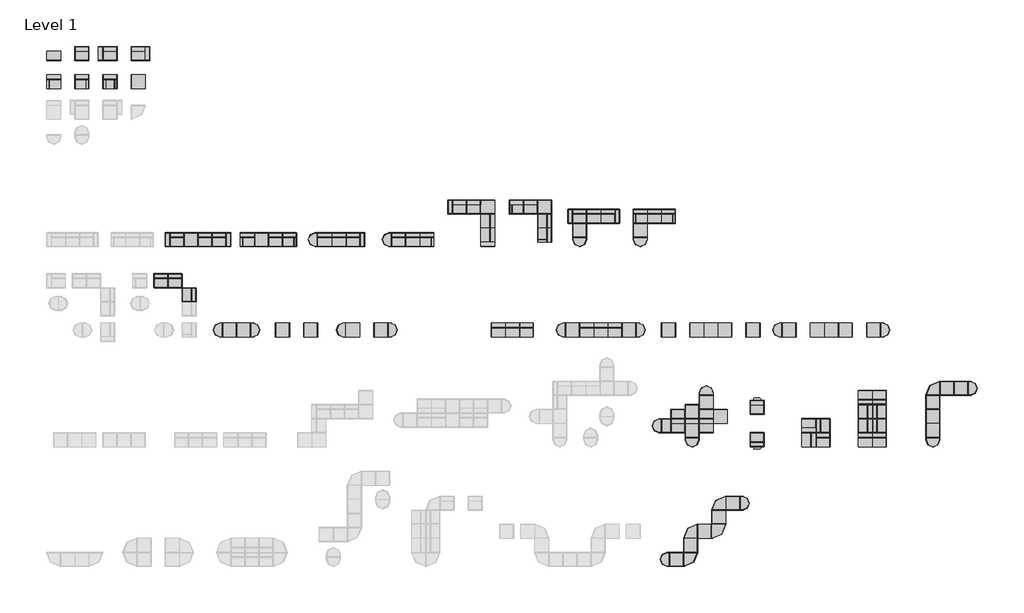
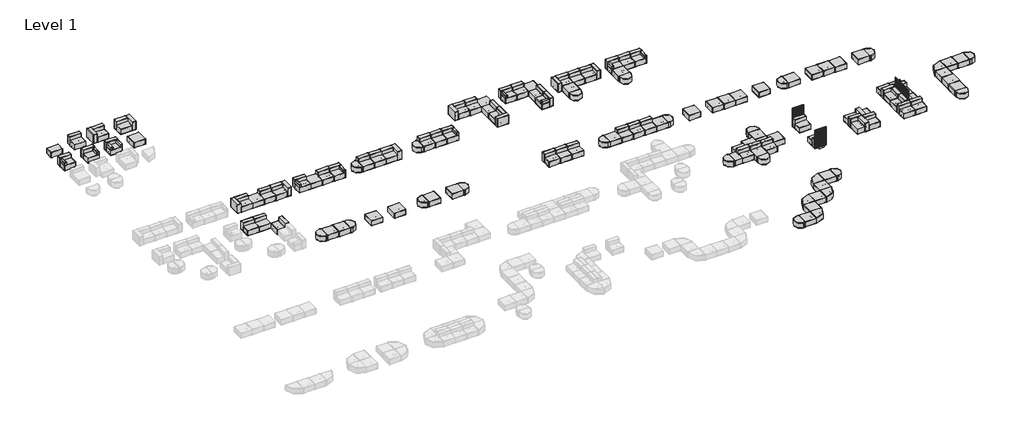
# One storey, part 2 of 2: 128 furniture elements.
"""IFC4 building model written with IfcOpenShell, lengths in millimetres."""

from ifc_helpers import new_model, si_unit, origin, place, context, project, spatial, transform, mapped, element, save
from components import furniture_5084037b, furniture_3ffb0636, furniture_b39dd79e, furniture_9625b8b5, furniture_e837e3ce, furniture_8b4e13db, furniture_611754e7, furniture_8cec5439, furniture_a2253782, furniture_31a3f507, furniture_429ba365, furniture_8747c72a, furniture_3dcba1a2, furniture_e2d3b3b4, furniture_0edc51ff, furniture_c2843c0f, square_end_608f2f8a, square_end_dfce1c3f

model = new_model("IFC4")

# Units and contexts
model_context = context("Model", 3, world=origin())
ifc_project = project(units=[si_unit("LENGTHUNIT", "METRE", prefix="MILLI")], contexts=[model_context])

# Site, building, storey
site = spatial("IfcSite", under=ifc_project)
building = spatial("IfcBuilding", under=site)
storey = spatial("IfcBuildingStorey", under=building, Name="Level 1", Elevation=0.0)

# Furniture
placement = place(None, origin())
furniture_shape = furniture_5084037b(model_context)
element("IfcFurniture", 1, ObjectType="KFI Studios - Conversa : 24”x36” Seat", at=placement, inside=storey, context=model_context, shape_type="MappedRepresentation", body=[
    mapped(furniture_shape, transform((-6591.037549, 2440.3500868, 0.0), x_axis=(1.0, 0.0, 0.0), y_axis=(0.0, 1.0, 0.0), z_axis=(0.0, 0.0, 1.0))),
])
element("IfcFurniture", 2, ObjectType="KFI Studios - Conversa : 24”x36” Seat", at=placement, inside=storey, context=model_context, shape_type="MappedRepresentation", body=[
    mapped(furniture_shape, transform((33193.777163, -21601.5371987, 0.0), x_axis=(0.0, 1.0, 0.0), y_axis=(-1.0, 0.0, 0.0), z_axis=(0.0, 0.0, 1.0))),
])
element("IfcFurniture", 3, ObjectType="KFI Studios - Conversa : 24”x36” Seat", at=placement, inside=storey, context=model_context, shape_type="MappedRepresentation", body=[
    mapped(furniture_shape, transform((33955.777163, -20839.5371987, 0.0), x_axis=(1.0, 0.0, 0.0), y_axis=(0.0, 1.0, 0.0), z_axis=(0.0, 0.0, 1.0))),
])
element("IfcFurniture", 4, ObjectType="KFI Studios - Conversa : 24”x36” Seat", at=placement, inside=storey, context=model_context, shape_type="MappedRepresentation", body=[
    mapped(furniture_shape, transform((35784.577163, -20839.5371987, 0.0), x_axis=(1.0, 0.0, 0.0), y_axis=(0.0, 1.0, 0.0), z_axis=(0.0, 0.0, 1.0))),
])
furniture_2_shape = furniture_3ffb0636(model_context)
element("IfcFurniture", 5, ObjectType="KFI Studios - Conversa : 24”x36” Seat with Back", at=placement, inside=storey, context=model_context, shape_type="MappedRepresentation", body=[
    mapped(furniture_2_shape, transform((-4762.237549, 2440.3500868, 0.0), x_axis=(1.0, 0.0, 0.0), y_axis=(0.0, 1.0, 0.0), z_axis=(0.0, 0.0, 1.0))),
])
element("IfcFurniture", 6, ObjectType="KFI Studios - Conversa : 24”x36” Seat with Back", at=placement, inside=storey, context=model_context, shape_type="MappedRepresentation", body=[
    mapped(furniture_2_shape, transform((3236.5868696, -9663.2904078, 0.0), x_axis=(1.0, 0.0, 0.0), y_axis=(0.0, 1.0, 0.0), z_axis=(0.0, 0.0, 1.0))),
])
element("IfcFurniture", 7, ObjectType="KFI Studios - Conversa : 24”x36” Seat with Back", at=placement, inside=storey, context=model_context, shape_type="MappedRepresentation", body=[
    mapped(furniture_2_shape, transform((7808.5868696, -9663.2904078, 0.0), x_axis=(1.0, 0.0, 0.0), y_axis=(0.0, 1.0, 0.0), z_axis=(0.0, 0.0, 1.0))),
])
element("IfcFurniture", 8, ObjectType="KFI Studios - Conversa : 24”x36” Seat with Back", at=placement, inside=storey, context=model_context, shape_type="MappedRepresentation", body=[
    mapped(furniture_2_shape, transform((11008.9868696, -9663.2904078, 0.0), x_axis=(1.0, 0.0, 0.0), y_axis=(0.0, 1.0, 0.0), z_axis=(0.0, 0.0, 1.0))),
])
element("IfcFurniture", 9, ObjectType="KFI Studios - Conversa : 24”x36” Seat with Back", at=placement, inside=storey, context=model_context, shape_type="MappedRepresentation", body=[
    mapped(furniture_2_shape, transform((11923.3868696, -9663.2904078, 0.0), x_axis=(1.0, 0.0, 0.0), y_axis=(0.0, 1.0, 0.0), z_axis=(0.0, 0.0, 1.0))),
])
element("IfcFurniture", 10, ObjectType="KFI Studios - Conversa : 24”x36” Seat with Back", at=placement, inside=storey, context=model_context, shape_type="MappedRepresentation", body=[
    mapped(furniture_2_shape, transform((15807.7116224, -9663.2904078, 0.0), x_axis=(1.0, 0.0, 0.0), y_axis=(0.0, 1.0, 0.0), z_axis=(0.0, 0.0, 1.0))),
])
element("IfcFurniture", 11, ObjectType="KFI Studios - Conversa : 24”x36” Seat with Back", at=placement, inside=storey, context=model_context, shape_type="MappedRepresentation", body=[
    mapped(furniture_2_shape, transform((16722.1116224, -9663.2904078, 0.0), x_axis=(1.0, 0.0, 0.0), y_axis=(0.0, 1.0, 0.0), z_axis=(0.0, 0.0, 1.0))),
])
element("IfcFurniture", 12, ObjectType="KFI Studios - Conversa : 24”x36” Seat with Back", at=placement, inside=storey, context=model_context, shape_type="MappedRepresentation", body=[
    mapped(furniture_2_shape, transform((20680.9097099, -7529.6904078, 0.0), x_axis=(1.0, 0.0, 0.0), y_axis=(0.0, 1.0, 0.0), z_axis=(0.0, 0.0, 1.0))),
])
element("IfcFurniture", 13, ObjectType="KFI Studios - Conversa : 24”x36” Seat with Back", at=placement, inside=storey, context=model_context, shape_type="MappedRepresentation", body=[
    mapped(furniture_2_shape, transform((21442.9097099, -8291.6904078, 0.0), x_axis=(0.0, -1.0, 0.0), y_axis=(1.0, 0.0, 0.0), z_axis=(0.0, 0.0, 1.0))),
])
element("IfcFurniture", 14, ObjectType="KFI Studios - Conversa : 24”x36” Seat with Back", at=placement, inside=storey, context=model_context, shape_type="MappedRepresentation", body=[
    mapped(furniture_2_shape, transform((24373.232917, -7529.6904078, 0.0), x_axis=(1.0, 0.0, 0.0), y_axis=(0.0, 1.0, 0.0), z_axis=(0.0, 0.0, 1.0))),
])
element("IfcFurniture", 15, ObjectType="KFI Studios - Conversa : 24”x36” Seat with Back", at=placement, inside=storey, context=model_context, shape_type="MappedRepresentation", body=[
    mapped(furniture_2_shape, transform((25135.232917, -8291.6904078, 0.0), x_axis=(0.0, -1.0, 0.0), y_axis=(1.0, 0.0, 0.0), z_axis=(0.0, 0.0, 1.0))),
])
element("IfcFurniture", 16, ObjectType="KFI Studios - Conversa : 24”x36” Seat with Back", at=placement, inside=storey, context=model_context, shape_type="MappedRepresentation", body=[
    mapped(furniture_2_shape, transform((28479.0917603, -8139.2904078, 0.0), x_axis=(1.0, 0.0, 0.0), y_axis=(0.0, 1.0, 0.0), z_axis=(0.0, 0.0, 1.0))),
])
element("IfcFurniture", 17, ObjectType="KFI Studios - Conversa : 24”x36” Seat with Back", at=placement, inside=storey, context=model_context, shape_type="MappedRepresentation", body=[
    mapped(furniture_2_shape, transform((32410.424472, -8139.2904078, 0.0), x_axis=(1.0, 0.0, 0.0), y_axis=(0.0, 1.0, 0.0), z_axis=(0.0, 0.0, 1.0))),
])
element("IfcFurniture", 18, ObjectType="KFI Studios - Conversa : 24”x36” Seat with Back", at=placement, inside=storey, context=model_context, shape_type="MappedRepresentation", body=[
    mapped(furniture_2_shape, transform((373.3647975, -12327.6582706, 0.0), x_axis=(1.0, 0.0, 0.0), y_axis=(0.0, 1.0, 0.0), z_axis=(0.0, 0.0, 1.0))),
])
element("IfcFurniture", 19, ObjectType="KFI Studios - Conversa : 24”x36” Seat with Back", at=placement, inside=storey, context=model_context, shape_type="MappedRepresentation", body=[
    mapped(furniture_2_shape, transform((1287.7647975, -12327.6582706, 0.0), x_axis=(1.0, 0.0, 0.0), y_axis=(0.0, 1.0, 0.0), z_axis=(0.0, 0.0, 1.0))),
])
element("IfcFurniture", 20, ObjectType="KFI Studios - Conversa : 24”x36” Seat with Back", at=placement, inside=storey, context=model_context, shape_type="MappedRepresentation", body=[
    mapped(furniture_2_shape, transform((2049.7647975, -13089.6582706, 0.0), x_axis=(0.0, -1.0, 0.0), y_axis=(1.0, 0.0, 0.0), z_axis=(0.0, 0.0, 1.0))),
])
element("IfcFurniture", 21, ObjectType="KFI Studios - Conversa : 24”x36” Seat with Back", at=placement, inside=storey, context=model_context, shape_type="MappedRepresentation", body=[
    mapped(furniture_2_shape, transform((22275.9177388, -15528.0582706, 0.0), x_axis=(1.0, 0.0, 0.0), y_axis=(0.0, 1.0, 0.0), z_axis=(0.0, 0.0, 1.0))),
])
element("IfcFurniture", 22, ObjectType="KFI Studios - Conversa : 24”x36” Seat with Back", at=placement, inside=storey, context=model_context, shape_type="MappedRepresentation", body=[
    mapped(furniture_2_shape, transform((23190.3177388, -15528.0582706, 0.0), x_axis=(1.0, 0.0, 0.0), y_axis=(0.0, 1.0, 0.0), z_axis=(0.0, 0.0, 1.0))),
])
element("IfcFurniture", 23, ObjectType="KFI Studios - Conversa : 24”x36” Seat with Back", at=placement, inside=storey, context=model_context, shape_type="MappedRepresentation", body=[
    mapped(furniture_2_shape, transform((24104.7177388, -15528.0582706, 0.0), x_axis=(1.0, 0.0, 0.0), y_axis=(0.0, 1.0, 0.0), z_axis=(0.0, 0.0, 1.0))),
])
element("IfcFurniture", 24, ObjectType="KFI Studios - Conversa : 24”x36” Seat with Back", at=placement, inside=storey, context=model_context, shape_type="MappedRepresentation", body=[
    mapped(furniture_2_shape, transform((28021.8917603, -15528.0582706, 0.0), x_axis=(1.0, 0.0, 0.0), y_axis=(0.0, 1.0, 0.0), z_axis=(0.0, 0.0, 1.0))),
])
element("IfcFurniture", 25, ObjectType="KFI Studios - Conversa : 24”x36” Seat with Back", at=placement, inside=storey, context=model_context, shape_type="MappedRepresentation", body=[
    mapped(furniture_2_shape, transform((28936.2917603, -15528.0582706, 0.0), x_axis=(1.0, 0.0, 0.0), y_axis=(0.0, 1.0, 0.0), z_axis=(0.0, 0.0, 1.0))),
])
element("IfcFurniture", 26, ObjectType="KFI Studios - Conversa : 24”x36” Seat with Back", at=placement, inside=storey, context=model_context, shape_type="MappedRepresentation", body=[
    mapped(furniture_2_shape, transform((29850.6917603, -15528.0582706, 0.0), x_axis=(1.0, 0.0, 0.0), y_axis=(0.0, 1.0, 0.0), z_axis=(0.0, 0.0, 1.0))),
])
element("IfcFurniture", 27, ObjectType="KFI Studios - Conversa : 24”x36” Seat with Back", at=placement, inside=storey, context=model_context, shape_type="MappedRepresentation", body=[
    mapped(furniture_2_shape, transform((33955.777163, -21753.9371987, 0.0), x_axis=(1.0, 0.0, 0.0), y_axis=(0.0, 1.0, 0.0), z_axis=(0.0, 0.0, 1.0))),
])
element("IfcFurniture", 28, ObjectType="KFI Studios - Conversa : 24”x36” Seat with Back", at=placement, inside=storey, context=model_context, shape_type="MappedRepresentation", body=[
    mapped(furniture_2_shape, transform((35784.577163, -21753.9371987, 0.0), x_axis=(1.0, 0.0, 0.0), y_axis=(0.0, 1.0, 0.0), z_axis=(0.0, 0.0, 1.0))),
])
element("IfcFurniture", 29, ObjectType="KFI Studios - Conversa : 24”x36” Seat with Back", at=placement, inside=storey, context=model_context, shape_type="MappedRepresentation", body=[
    mapped(furniture_2_shape, transform((39090.5576113, -20550.7499834, 0.0), x_axis=(1.0, 0.0, 0.0), y_axis=(0.0, 1.0, 0.0), z_axis=(0.0, 0.0, 1.0))),
])
element("IfcFurniture", 30, ObjectType="KFI Studios - Conversa : 24”x36” Seat with Back", at=placement, inside=storey, context=model_context, shape_type="MappedRepresentation", body=[
    mapped(furniture_2_shape, transform((39090.5576113, -22351.2842481, 0.0), x_axis=(-1.0, 0.0, 0.0), y_axis=(0.0, -1.0, 0.0), z_axis=(0.0, 0.0, 1.0))),
])
element("IfcFurniture", 31, ObjectType="KFI Studios - Conversa : 24”x36” Seat with Back", at=placement, inside=storey, context=model_context, shape_type="MappedRepresentation", body=[
    mapped(furniture_2_shape, transform((43369.616261, -22668.3371987, 0.0), x_axis=(1.0, 0.0, 0.0), y_axis=(0.0, 1.0, 0.0), z_axis=(0.0, 0.0, 1.0))),
])
element("IfcFurniture", 32, ObjectType="KFI Studios - Conversa : 24”x36” Seat with Back", at=placement, inside=storey, context=model_context, shape_type="MappedRepresentation", body=[
    mapped(furniture_2_shape, transform((42290.5633105, -22515.9371987, 0.0), x_axis=(0.0, -1.0, 0.0), y_axis=(1.0, 0.0, 0.0), z_axis=(0.0, 0.0, 1.0))),
])
element("IfcFurniture", 33, ObjectType="KFI Studios - Conversa : 24”x36” Seat with Back", at=placement, inside=storey, context=model_context, shape_type="MappedRepresentation", body=[
    mapped(furniture_2_shape, transform((42442.9633105, -21436.8842481, 0.0), x_axis=(-1.0, 0.0, 0.0), y_axis=(0.0, -1.0, 0.0), z_axis=(0.0, 0.0, 1.0))),
])
element("IfcFurniture", 34, ObjectType="KFI Studios - Conversa : 24”x36” Seat with Back", at=placement, inside=storey, context=model_context, shape_type="MappedRepresentation", body=[
    mapped(furniture_2_shape, transform((43522.016261, -21589.2842481, 0.0), x_axis=(0.0, 1.0, 0.0), y_axis=(-1.0, 0.0, 0.0), z_axis=(0.0, 0.0, 1.0))),
])
element("IfcFurniture", 35, ObjectType="KFI Studios - Conversa : 24”x36” Seat with Back", at=placement, inside=storey, context=model_context, shape_type="MappedRepresentation", body=[
    mapped(furniture_2_shape, transform((46115.0162357, -22668.3371987, 0.0), x_axis=(1.0, 0.0, 0.0), y_axis=(0.0, 1.0, 0.0), z_axis=(0.0, 0.0, 1.0))),
])
element("IfcFurniture", 36, ObjectType="KFI Studios - Conversa : 24”x36” Seat with Back", at=placement, inside=storey, context=model_context, shape_type="MappedRepresentation", body=[
    mapped(furniture_2_shape, transform((47029.4162357, -22668.3371987, 0.0), x_axis=(1.0, 0.0, 0.0), y_axis=(0.0, 1.0, 0.0), z_axis=(0.0, 0.0, 1.0))),
])
element("IfcFurniture", 37, ObjectType="KFI Studios - Conversa : 24”x36” Seat with Back", at=placement, inside=storey, context=model_context, shape_type="MappedRepresentation", body=[
    mapped(furniture_2_shape, transform((47187.942711, -21589.2842481, 0.0), x_axis=(0.0, 1.0, 0.0), y_axis=(-1.0, 0.0, 0.0), z_axis=(0.0, 0.0, 1.0))),
])
element("IfcFurniture", 38, ObjectType="KFI Studios - Conversa : 24”x36” Seat with Back", at=placement, inside=storey, context=model_context, shape_type="MappedRepresentation", body=[
    mapped(furniture_2_shape, transform((45956.4897605, -20674.8842481, 0.0), x_axis=(0.0, -1.0, 0.0), y_axis=(1.0, 0.0, 0.0), z_axis=(0.0, 0.0, 1.0))),
])
furniture_3_shape = furniture_b39dd79e(model_context)
furniture_4_shape = furniture_9625b8b5(model_context)
element("IfcFurniture", 39, ObjectType="KFI Studios - Conversa : 24”x36” Seat - Left Corner", at=placement, inside=storey, context=model_context, shape_type="MappedRepresentation", body=[
    mapped(furniture_3_shape, transform((-1104.637549, 2440.3500868, 0.0), x_axis=(1.0, 0.0, 0.0), y_axis=(0.0, 1.0, 0.0), z_axis=(0.0, 0.0, 1.0))),
    mapped(furniture_4_shape, transform((-1104.637549, 2440.3500868, 0.0), x_axis=(1.0, 0.0, 0.0), y_axis=(0.0, 1.0, 0.0), z_axis=(0.0, 0.0, 1.0))),
])
element("IfcFurniture", 40, ObjectType="KFI Studios - Conversa : 24”x36” Seat - Left Corner", at=placement, inside=storey, context=model_context, shape_type="MappedRepresentation", body=[
    mapped(furniture_3_shape, transform((4150.9868696, -9663.2904078, 0.0), x_axis=(1.0, 0.0, 0.0), y_axis=(0.0, 1.0, 0.0), z_axis=(0.0, 0.0, 1.0))),
    mapped(furniture_4_shape, transform((4150.9868696, -9663.2904078, 0.0), x_axis=(1.0, 0.0, 0.0), y_axis=(0.0, 1.0, 0.0), z_axis=(0.0, 0.0, 1.0))),
])
element("IfcFurniture", 41, ObjectType="KFI Studios - Conversa : 24”x36” Seat - Left Corner", at=placement, inside=storey, context=model_context, shape_type="MappedRepresentation", body=[
    mapped(furniture_3_shape, transform((12837.7868696, -9663.2904078, 0.0), x_axis=(1.0, 0.0, 0.0), y_axis=(0.0, 1.0, 0.0), z_axis=(0.0, 0.0, 1.0))),
    mapped(furniture_4_shape, transform((12837.7868696, -9663.2904078, 0.0), x_axis=(1.0, 0.0, 0.0), y_axis=(0.0, 1.0, 0.0), z_axis=(0.0, 0.0, 1.0))),
])
element("IfcFurniture", 42, ObjectType="KFI Studios - Conversa : 24”x36” Seat - Left Corner", at=placement, inside=storey, context=model_context, shape_type="MappedRepresentation", body=[
    mapped(furniture_3_shape, transform((21442.9097099, -9206.0904078, 0.0), x_axis=(0.0, -1.0, 0.0), y_axis=(1.0, 0.0, 0.0), z_axis=(0.0, 0.0, 1.0))),
    mapped(furniture_4_shape, transform((21442.9097099, -9206.0904078, 0.0), x_axis=(0.0, -1.0, 0.0), y_axis=(1.0, 0.0, 0.0), z_axis=(0.0, 0.0, 1.0))),
])
element("IfcFurniture", 43, ObjectType="KFI Studios - Conversa : 24”x36” Seat - Left Corner", at=placement, inside=storey, context=model_context, shape_type="MappedRepresentation", body=[
    mapped(furniture_3_shape, transform((29393.4917603, -8139.2904078, 0.0), x_axis=(1.0, 0.0, 0.0), y_axis=(0.0, 1.0, 0.0), z_axis=(0.0, 0.0, 1.0))),
    mapped(furniture_4_shape, transform((29393.4917603, -8139.2904078, 0.0), x_axis=(1.0, 0.0, 0.0), y_axis=(0.0, 1.0, 0.0), z_axis=(0.0, 0.0, 1.0))),
])
furniture_5_shape = furniture_e837e3ce(model_context)
element("IfcFurniture", 44, ObjectType="KFI Studios - Conversa : 24”x36” Seat - Right Corner", at=placement, inside=storey, context=model_context, shape_type="MappedRepresentation", body=[
    mapped(furniture_5_shape, transform((-2933.437549, 2440.3500868, 0.0), x_axis=(1.0, 0.0, 0.0), y_axis=(0.0, 1.0, 0.0), z_axis=(0.0, 0.0, 1.0))),
    mapped(furniture_4_shape, transform((-2933.437549, 2440.3500868, 0.0), x_axis=(1.0, 0.0, 0.0), y_axis=(0.0, 1.0, 0.0), z_axis=(0.0, 0.0, 1.0))),
])
element("IfcFurniture", 45, ObjectType="KFI Studios - Conversa : 24”x36” Seat - Right Corner", at=placement, inside=storey, context=model_context, shape_type="MappedRepresentation", body=[
    mapped(furniture_5_shape, transform((1407.7868696, -9663.2904078, 0.0), x_axis=(1.0, 0.0, 0.0), y_axis=(0.0, 1.0, 0.0), z_axis=(0.0, 0.0, 1.0))),
    mapped(furniture_4_shape, transform((1407.7868696, -9663.2904078, 0.0), x_axis=(1.0, 0.0, 0.0), y_axis=(0.0, 1.0, 0.0), z_axis=(0.0, 0.0, 1.0))),
])
element("IfcFurniture", 46, ObjectType="KFI Studios - Conversa : 24”x36” Seat - Right Corner", at=placement, inside=storey, context=model_context, shape_type="MappedRepresentation", body=[
    mapped(furniture_5_shape, transform((19766.5097099, -7529.6904078, 0.0), x_axis=(1.0, 0.0, 0.0), y_axis=(0.0, 1.0, 0.0), z_axis=(0.0, 0.0, 1.0))),
    mapped(furniture_4_shape, transform((19766.5097099, -7529.6904078, 0.0), x_axis=(1.0, 0.0, 0.0), y_axis=(0.0, 1.0, 0.0), z_axis=(0.0, 0.0, 1.0))),
])
element("IfcFurniture", 47, ObjectType="KFI Studios - Conversa : 24”x36” Seat - Right Corner", at=placement, inside=storey, context=model_context, shape_type="MappedRepresentation", body=[
    mapped(furniture_5_shape, transform((27564.6917603, -8139.2904078, 0.0), x_axis=(1.0, 0.0, 0.0), y_axis=(0.0, 1.0, 0.0), z_axis=(0.0, 0.0, 1.0))),
    mapped(furniture_4_shape, transform((27564.6917603, -8139.2904078, 0.0), x_axis=(1.0, 0.0, 0.0), y_axis=(0.0, 1.0, 0.0), z_axis=(0.0, 0.0, 1.0))),
])
furniture_6_shape = furniture_8b4e13db(model_context)
furniture_7_shape = furniture_611754e7(model_context)
element("IfcFurniture", 48, ObjectType="KFI Studios - Conversa : 24”x36” Seat - Right Corner, Small Arm", at=placement, inside=storey, context=model_context, shape_type="MappedRepresentation", body=[
    mapped(furniture_6_shape, transform((-6591.037549, 611.5500868, 0.0), x_axis=(1.0, 0.0, 0.0), y_axis=(0.0, 1.0, 0.0), z_axis=(0.0, 0.0, 1.0))),
    mapped(furniture_7_shape, transform((-6591.037549, 611.5500868, 0.0), x_axis=(1.0, 0.0, 0.0), y_axis=(0.0, 1.0, 0.0), z_axis=(0.0, 0.0, 1.0))),
])
element("IfcFurniture", 49, ObjectType="KFI Studios - Conversa : 24”x36” Seat - Right Corner, Small Arm", at=placement, inside=storey, context=model_context, shape_type="MappedRepresentation", body=[
    mapped(furniture_6_shape, transform((5979.7868696, -9663.2904078, 0.0), x_axis=(1.0, 0.0, 0.0), y_axis=(0.0, 1.0, 0.0), z_axis=(0.0, 0.0, 1.0))),
    mapped(furniture_7_shape, transform((5979.7868696, -9663.2904078, 0.0), x_axis=(1.0, 0.0, 0.0), y_axis=(0.0, 1.0, 0.0), z_axis=(0.0, 0.0, 1.0))),
])
element("IfcFurniture", 50, ObjectType="KFI Studios - Conversa : 24”x36” Seat - Right Corner, Small Arm", at=placement, inside=storey, context=model_context, shape_type="MappedRepresentation", body=[
    mapped(furniture_6_shape, transform((23458.832917, -7529.6904078, 0.0), x_axis=(1.0, 0.0, 0.0), y_axis=(0.0, 1.0, 0.0), z_axis=(0.0, 0.0, 1.0))),
    mapped(furniture_7_shape, transform((23458.832917, -7529.6904078, 0.0), x_axis=(1.0, 0.0, 0.0), y_axis=(0.0, 1.0, 0.0), z_axis=(0.0, 0.0, 1.0))),
])
element("IfcFurniture", 51, ObjectType="KFI Studios - Conversa : 24”x36” Seat - Right Corner, Small Arm", at=placement, inside=storey, context=model_context, shape_type="MappedRepresentation", body=[
    mapped(furniture_6_shape, transform((31496.024472, -8139.2904078, 0.0), x_axis=(1.0, 0.0, 0.0), y_axis=(0.0, 1.0, 0.0), z_axis=(0.0, 0.0, 1.0))),
    mapped(furniture_7_shape, transform((31496.024472, -8139.2904078, 0.0), x_axis=(1.0, 0.0, 0.0), y_axis=(0.0, 1.0, 0.0), z_axis=(0.0, 0.0, 1.0))),
])
furniture_8_shape = furniture_8cec5439(model_context)
element("IfcFurniture", 52, ObjectType="KFI Studios - Conversa : 24”x36” Seat - Left Corner, Small Arm", at=placement, inside=storey, context=model_context, shape_type="MappedRepresentation", body=[
    mapped(furniture_8_shape, transform((-4762.237549, 611.5500868, 0.0), x_axis=(1.0, 0.0, 0.0), y_axis=(0.0, 1.0, 0.0), z_axis=(0.0, 0.0, 1.0))),
    mapped(furniture_7_shape, transform((-4762.237549, 611.5500868, 0.0), x_axis=(1.0, 0.0, 0.0), y_axis=(0.0, 1.0, 0.0), z_axis=(0.0, 0.0, 1.0))),
])
element("IfcFurniture", 53, ObjectType="KFI Studios - Conversa : 24”x36” Seat - Left Corner, Small Arm", at=placement, inside=storey, context=model_context, shape_type="MappedRepresentation", body=[
    mapped(furniture_8_shape, transform((8722.9868696, -9663.2904078, 0.0), x_axis=(1.0, 0.0, 0.0), y_axis=(0.0, 1.0, 0.0), z_axis=(0.0, 0.0, 1.0))),
    mapped(furniture_7_shape, transform((8722.9868696, -9663.2904078, 0.0), x_axis=(1.0, 0.0, 0.0), y_axis=(0.0, 1.0, 0.0), z_axis=(0.0, 0.0, 1.0))),
])
element("IfcFurniture", 54, ObjectType="KFI Studios - Conversa : 24”x36” Seat - Left Corner, Small Arm", at=placement, inside=storey, context=model_context, shape_type="MappedRepresentation", body=[
    mapped(furniture_8_shape, transform((17636.5116224, -9663.2904078, 0.0), x_axis=(1.0, 0.0, 0.0), y_axis=(0.0, 1.0, 0.0), z_axis=(0.0, 0.0, 1.0))),
    mapped(furniture_7_shape, transform((17636.5116224, -9663.2904078, 0.0), x_axis=(1.0, 0.0, 0.0), y_axis=(0.0, 1.0, 0.0), z_axis=(0.0, 0.0, 1.0))),
])
element("IfcFurniture", 55, ObjectType="KFI Studios - Conversa : 24”x36” Seat - Left Corner, Small Arm", at=placement, inside=storey, context=model_context, shape_type="MappedRepresentation", body=[
    mapped(furniture_8_shape, transform((25135.232917, -9206.0904078, 0.0), x_axis=(0.0, -1.0, 0.0), y_axis=(1.0, 0.0, 0.0), z_axis=(0.0, 0.0, 1.0))),
    mapped(furniture_7_shape, transform((25135.232917, -9206.0904078, 0.0), x_axis=(0.0, -1.0, 0.0), y_axis=(1.0, 0.0, 0.0), z_axis=(0.0, 0.0, 1.0))),
])
element("IfcFurniture", 56, ObjectType="KFI Studios - Conversa : 24”x36” Seat - Left Corner, Small Arm", at=placement, inside=storey, context=model_context, shape_type="MappedRepresentation", body=[
    mapped(furniture_8_shape, transform((33324.824472, -8139.2904078, 0.0), x_axis=(1.0, 0.0, 0.0), y_axis=(0.0, 1.0, 0.0), z_axis=(0.0, 0.0, 1.0))),
    mapped(furniture_7_shape, transform((33324.824472, -8139.2904078, 0.0), x_axis=(1.0, 0.0, 0.0), y_axis=(0.0, 1.0, 0.0), z_axis=(0.0, 0.0, 1.0))),
])
furniture_9_shape = furniture_a2253782(model_context)
element("IfcFurniture", 57, ObjectType="KFI Studios - Conversa : 36”x36” Seat", at=placement, inside=storey, context=model_context, shape_type="MappedRepresentation", body=[
    mapped(furniture_9_shape, transform((-1104.637549, 763.9500868, 0.0), x_axis=(1.0, 0.0, 0.0), y_axis=(0.0, 1.0, 0.0), z_axis=(0.0, 0.0, 1.0))),
])
element("IfcFurniture", 58, ObjectType="KFI Studios - Conversa : 36”x36” Seat", at=placement, inside=storey, context=model_context, shape_type="MappedRepresentation", body=[
    mapped(furniture_9_shape, transform((2322.1868696, -9510.8904078, 0.0), x_axis=(1.0, 0.0, 0.0), y_axis=(0.0, 1.0, 0.0), z_axis=(0.0, 0.0, 1.0))),
])
element("IfcFurniture", 59, ObjectType="KFI Studios - Conversa : 36”x36” Seat", at=placement, inside=storey, context=model_context, shape_type="MappedRepresentation", body=[
    mapped(furniture_9_shape, transform((6894.1868696, -9510.8904078, 0.0), x_axis=(1.0, 0.0, 0.0), y_axis=(0.0, 1.0, 0.0), z_axis=(0.0, 0.0, 1.0))),
])
element("IfcFurniture", 60, ObjectType="KFI Studios - Conversa : 36”x36” Seat", at=placement, inside=storey, context=model_context, shape_type="MappedRepresentation", body=[
    mapped(furniture_9_shape, transform((21595.3097099, -7377.2904078, 0.0), x_axis=(1.0, 0.0, 0.0), y_axis=(0.0, 1.0, 0.0), z_axis=(0.0, 0.0, 1.0))),
])
element("IfcFurniture", 61, ObjectType="KFI Studios - Conversa : 36”x36” Seat", at=placement, inside=storey, context=model_context, shape_type="MappedRepresentation", body=[
    mapped(furniture_9_shape, transform((25287.632917, -7377.2904078, 0.0), x_axis=(1.0, 0.0, 0.0), y_axis=(0.0, 1.0, 0.0), z_axis=(0.0, 0.0, 1.0))),
])
element("IfcFurniture", 62, ObjectType="KFI Studios - Conversa : 36”x36” Seat", at=placement, inside=storey, context=model_context, shape_type="MappedRepresentation", body=[
    mapped(furniture_9_shape, transform((27564.6917603, -8901.2904078, 0.0), x_axis=(1.0, 0.0, 0.0), y_axis=(0.0, 1.0, 0.0), z_axis=(0.0, 0.0, 1.0))),
])
element("IfcFurniture", 63, ObjectType="KFI Studios - Conversa : 36”x36” Seat", at=placement, inside=storey, context=model_context, shape_type="MappedRepresentation", body=[
    mapped(furniture_9_shape, transform((31496.024472, -8901.2904078, 0.0), x_axis=(1.0, 0.0, 0.0), y_axis=(0.0, 1.0, 0.0), z_axis=(0.0, 0.0, 1.0))),
])
element("IfcFurniture", 64, ObjectType="KFI Studios - Conversa : 36”x36” Seat", at=placement, inside=storey, context=model_context, shape_type="MappedRepresentation", body=[
    mapped(furniture_9_shape, transform((4824.4730203, -15375.6582706, 0.0), x_axis=(1.0, 0.0, 0.0), y_axis=(0.0, 1.0, 0.0), z_axis=(0.0, 0.0, 1.0))),
])
element("IfcFurniture", 65, ObjectType="KFI Studios - Conversa : 36”x36” Seat", at=placement, inside=storey, context=model_context, shape_type="MappedRepresentation", body=[
    mapped(furniture_9_shape, transform((5738.8730203, -15375.6582706, 0.0), x_axis=(1.0, 0.0, 0.0), y_axis=(0.0, 1.0, 0.0), z_axis=(0.0, 0.0, 1.0))),
])
element("IfcFurniture", 66, ObjectType="KFI Studios - Conversa : 36”x36” Seat", at=placement, inside=storey, context=model_context, shape_type="MappedRepresentation", body=[
    mapped(furniture_9_shape, transform((8265.7868696, -15375.6582706, 0.0), x_axis=(1.0, 0.0, 0.0), y_axis=(0.0, 1.0, 0.0), z_axis=(0.0, 0.0, 1.0))),
])
element("IfcFurniture", 67, ObjectType="KFI Studios - Conversa : 36”x36” Seat", at=placement, inside=storey, context=model_context, shape_type="MappedRepresentation", body=[
    mapped(furniture_9_shape, transform((10094.5868696, -15375.6582706, 0.0), x_axis=(1.0, 0.0, 0.0), y_axis=(0.0, 1.0, 0.0), z_axis=(0.0, 0.0, 1.0))),
])
element("IfcFurniture", 68, ObjectType="KFI Studios - Conversa : 36”x36” Seat", at=placement, inside=storey, context=model_context, shape_type="MappedRepresentation", body=[
    mapped(furniture_9_shape, transform((12829.7714388, -15375.6582706, 0.0), x_axis=(1.0, 0.0, 0.0), y_axis=(0.0, 1.0, 0.0), z_axis=(0.0, 0.0, 1.0))),
])
element("IfcFurniture", 69, ObjectType="KFI Studios - Conversa : 36”x36” Seat", at=placement, inside=storey, context=model_context, shape_type="MappedRepresentation", body=[
    mapped(furniture_9_shape, transform((14658.5714388, -15375.6582706, 0.0), x_axis=(1.0, 0.0, 0.0), y_axis=(0.0, 1.0, 0.0), z_axis=(0.0, 0.0, 1.0))),
])
element("IfcFurniture", 70, ObjectType="KFI Studios - Conversa : 36”x36” Seat", at=placement, inside=storey, context=model_context, shape_type="MappedRepresentation", body=[
    mapped(furniture_9_shape, transform((30765.0917603, -15375.6582706, 0.0), x_axis=(1.0, 0.0, 0.0), y_axis=(0.0, 1.0, 0.0), z_axis=(0.0, 0.0, 1.0))),
])
element("IfcFurniture", 71, ObjectType="KFI Studios - Conversa : 36”x36” Seat", at=placement, inside=storey, context=model_context, shape_type="MappedRepresentation", body=[
    mapped(furniture_9_shape, transform((27107.4917603, -15375.6582706, 0.0), x_axis=(1.0, 0.0, 0.0), y_axis=(0.0, 1.0, 0.0), z_axis=(0.0, 0.0, 1.0))),
])
element("IfcFurniture", 72, ObjectType="KFI Studios - Conversa : 36”x36” Seat", at=placement, inside=storey, context=model_context, shape_type="MappedRepresentation", body=[
    mapped(furniture_9_shape, transform((35165.7732988, -15375.6582706, 0.0), x_axis=(1.0, 0.0, 0.0), y_axis=(0.0, 1.0, 0.0), z_axis=(0.0, 0.0, 1.0))),
])
element("IfcFurniture", 73, ObjectType="KFI Studios - Conversa : 36”x36” Seat", at=placement, inside=storey, context=model_context, shape_type="MappedRepresentation", body=[
    mapped(furniture_9_shape, transform((36080.1732988, -15375.6582706, 0.0), x_axis=(1.0, 0.0, 0.0), y_axis=(0.0, 1.0, 0.0), z_axis=(0.0, 0.0, 1.0))),
])
element("IfcFurniture", 74, ObjectType="KFI Studios - Conversa : 36”x36” Seat", at=placement, inside=storey, context=model_context, shape_type="MappedRepresentation", body=[
    mapped(furniture_9_shape, transform((36994.5732988, -15375.6582706, 0.0), x_axis=(1.0, 0.0, 0.0), y_axis=(0.0, 1.0, 0.0), z_axis=(0.0, 0.0, 1.0))),
])
element("IfcFurniture", 75, ObjectType="KFI Studios - Conversa : 36”x36” Seat", at=placement, inside=storey, context=model_context, shape_type="MappedRepresentation", body=[
    mapped(furniture_9_shape, transform((33336.9732988, -15375.6582706, 0.0), x_axis=(1.0, 0.0, 0.0), y_axis=(0.0, 1.0, 0.0), z_axis=(0.0, 0.0, 1.0))),
])
element("IfcFurniture", 76, ObjectType="KFI Studios - Conversa : 36”x36” Seat", at=placement, inside=storey, context=model_context, shape_type="MappedRepresentation", body=[
    mapped(furniture_9_shape, transform((38823.3732988, -15375.6582706, 0.0), x_axis=(1.0, 0.0, 0.0), y_axis=(0.0, 1.0, 0.0), z_axis=(0.0, 0.0, 1.0))),
])
element("IfcFurniture", 77, ObjectType="KFI Studios - Conversa : 36”x36” Seat", at=placement, inside=storey, context=model_context, shape_type="MappedRepresentation", body=[
    mapped(furniture_9_shape, transform((42997.1367055, -15375.6582706, 0.0), x_axis=(1.0, 0.0, 0.0), y_axis=(0.0, 1.0, 0.0), z_axis=(0.0, 0.0, 1.0))),
])
element("IfcFurniture", 78, ObjectType="KFI Studios - Conversa : 36”x36” Seat", at=placement, inside=storey, context=model_context, shape_type="MappedRepresentation", body=[
    mapped(furniture_9_shape, transform((43911.5367055, -15375.6582706, 0.0), x_axis=(1.0, 0.0, 0.0), y_axis=(0.0, 1.0, 0.0), z_axis=(0.0, 0.0, 1.0))),
])
element("IfcFurniture", 79, ObjectType="KFI Studios - Conversa : 36”x36” Seat", at=placement, inside=storey, context=model_context, shape_type="MappedRepresentation", body=[
    mapped(furniture_9_shape, transform((44825.9367055, -15375.6582706, 0.0), x_axis=(1.0, 0.0, 0.0), y_axis=(0.0, 1.0, 0.0), z_axis=(0.0, 0.0, 1.0))),
])
element("IfcFurniture", 80, ObjectType="KFI Studios - Conversa : 36”x36” Seat", at=placement, inside=storey, context=model_context, shape_type="MappedRepresentation", body=[
    mapped(furniture_9_shape, transform((41168.3367055, -15375.6582706, 0.0), x_axis=(1.0, 0.0, 0.0), y_axis=(0.0, 1.0, 0.0), z_axis=(0.0, 0.0, 1.0))),
])
element("IfcFurniture", 81, ObjectType="KFI Studios - Conversa : 36”x36” Seat", at=placement, inside=storey, context=model_context, shape_type="MappedRepresentation", body=[
    mapped(furniture_9_shape, transform((46654.7367055, -15375.6582706, 0.0), x_axis=(1.0, 0.0, 0.0), y_axis=(0.0, 1.0, 0.0), z_axis=(0.0, 0.0, 1.0))),
])
element("IfcFurniture", 82, ObjectType="KFI Studios - Conversa : 36”x36” Seat", at=placement, inside=storey, context=model_context, shape_type="MappedRepresentation", body=[
    mapped(furniture_9_shape, transform((34870.177163, -20687.1371987, 0.0), x_axis=(1.0, 0.0, 0.0), y_axis=(0.0, 1.0, 0.0), z_axis=(0.0, 0.0, 1.0))),
])
element("IfcFurniture", 83, ObjectType="KFI Studios - Conversa : 36”x36” Seat", at=placement, inside=storey, context=model_context, shape_type="MappedRepresentation", body=[
    mapped(furniture_9_shape, transform((35784.577163, -20077.5371987, 0.0), x_axis=(1.0, 0.0, 0.0), y_axis=(0.0, 1.0, 0.0), z_axis=(0.0, 0.0, 1.0))),
])
element("IfcFurniture", 84, ObjectType="KFI Studios - Conversa : 36”x36” Seat", at=placement, inside=storey, context=model_context, shape_type="MappedRepresentation", body=[
    mapped(furniture_9_shape, transform((36698.977163, -20991.9371987, 0.0), x_axis=(1.0, 0.0, 0.0), y_axis=(0.0, 1.0, 0.0), z_axis=(0.0, 0.0, 1.0))),
])
element("IfcFurniture", 85, ObjectType="KFI Studios - Conversa : 36”x36” Seat", at=placement, inside=storey, context=model_context, shape_type="MappedRepresentation", body=[
    mapped(furniture_9_shape, transform((51420.4571582, -19163.1371987, 0.0), x_axis=(1.0, 0.0, 0.0), y_axis=(0.0, 1.0, 0.0), z_axis=(0.0, 0.0, 1.0))),
])
element("IfcFurniture", 86, ObjectType="KFI Studios - Conversa : 36”x36” Seat", at=placement, inside=storey, context=model_context, shape_type="MappedRepresentation", body=[
    mapped(furniture_9_shape, transform((52334.8571582, -19163.1371987, 0.0), x_axis=(1.0, 0.0, 0.0), y_axis=(0.0, 1.0, 0.0), z_axis=(0.0, 0.0, 1.0))),
])
element("IfcFurniture", 87, ObjectType="KFI Studios - Conversa : 36”x36” Seat", at=placement, inside=storey, context=model_context, shape_type="MappedRepresentation", body=[
    mapped(furniture_9_shape, transform((50506.0571582, -20077.5371987, 0.0), x_axis=(1.0, 0.0, 0.0), y_axis=(0.0, 1.0, 0.0), z_axis=(0.0, 0.0, 1.0))),
])
element("IfcFurniture", 88, ObjectType="KFI Studios - Conversa : 36”x36” Seat", at=placement, inside=storey, context=model_context, shape_type="MappedRepresentation", body=[
    mapped(furniture_9_shape, transform((50506.0571582, -20991.9371987, 0.0), x_axis=(1.0, 0.0, 0.0), y_axis=(0.0, 1.0, 0.0), z_axis=(0.0, 0.0, 1.0))),
])
element("IfcFurniture", 89, ObjectType="KFI Studios - Conversa : 36”x36” Seat", at=placement, inside=storey, context=model_context, shape_type="MappedRepresentation", body=[
    mapped(furniture_9_shape, transform((50506.0571582, -21906.3371987, 0.0), x_axis=(1.0, 0.0, 0.0), y_axis=(0.0, 1.0, 0.0), z_axis=(0.0, 0.0, 1.0))),
])
element("IfcFurniture", 90, ObjectType="KFI Studios - Conversa : 36”x36” Seat", at=placement, inside=storey, context=model_context, shape_type="MappedRepresentation", body=[
    mapped(furniture_9_shape, transform((33855.5376721, -30288.3371987, 0.0), x_axis=(0.0, 1.0, 0.0), y_axis=(-1.0, 0.0, 0.0), z_axis=(0.0, 0.0, 1.0))),
])
element("IfcFurniture", 91, ObjectType="KFI Studios - Conversa : 36”x36” Seat", at=placement, inside=storey, context=model_context, shape_type="MappedRepresentation", body=[
    mapped(furniture_9_shape, transform((34769.9376721, -29373.9371987, 0.0), x_axis=(0.0, 1.0, 0.0), y_axis=(-1.0, 0.0, 0.0), z_axis=(0.0, 0.0, 1.0))),
])
element("IfcFurniture", 92, ObjectType="KFI Studios - Conversa : 36”x36” Seat", at=placement, inside=storey, context=model_context, shape_type="MappedRepresentation", body=[
    mapped(furniture_9_shape, transform((36598.7376721, -27545.1371987, 0.0), x_axis=(0.0, 1.0, 0.0), y_axis=(-1.0, 0.0, 0.0), z_axis=(0.0, 0.0, 1.0))),
])
furniture_10_shape = furniture_31a3f507(model_context)
element("IfcFurniture", 93, ObjectType="KFI Studios - Conversa : 36”x36” Seat with Back", at=placement, inside=storey, context=model_context, shape_type="MappedRepresentation", body=[
    mapped(furniture_10_shape, transform((34870.177163, -21906.3371987, 0.0), x_axis=(1.0, 0.0, 0.0), y_axis=(0.0, 1.0, 0.0), z_axis=(0.0, 0.0, 1.0))),
])
furniture_11_shape = furniture_429ba365(model_context)
element("IfcFurniture", 94, ObjectType="KFI Studios - Conversa - Corner Seat : KFI Studios - Conversa - Corner Seat", at=placement, inside=storey, context=model_context, shape_type="MappedRepresentation", body=[
    mapped(furniture_11_shape, transform((50506.0571582, -19163.1371987, 0.0), x_axis=(-1.0, 0.0, 0.0), y_axis=(0.0, -1.0, 0.0), z_axis=(0.0, 0.0, 1.0))),
])
element("IfcFurniture", 95, ObjectType="KFI Studios - Conversa - Corner Seat : KFI Studios - Conversa - Corner Seat", at=placement, inside=storey, context=model_context, shape_type="MappedRepresentation", body=[
    mapped(furniture_11_shape, transform((34769.9376721, -30288.3371987, 0.0), x_axis=(1.0, 0.0, 0.0), y_axis=(0.0, 1.0, 0.0), z_axis=(0.0, 0.0, 1.0))),
])
element("IfcFurniture", 96, ObjectType="KFI Studios - Conversa - Corner Seat : KFI Studios - Conversa - Corner Seat", at=placement, inside=storey, context=model_context, shape_type="MappedRepresentation", body=[
    mapped(furniture_11_shape, transform((34769.9376721, -28459.5371987, 0.0), x_axis=(-1.0, 0.0, 0.0), y_axis=(0.0, -1.0, 0.0), z_axis=(0.0, 0.0, 1.0))),
])
furniture_12_shape = furniture_8747c72a(model_context)
element("IfcFurniture", 97, ObjectType="KFI Studios - Conversa - Half Round Seat : KFI Studios - Conversa - Half Round Seat", at=placement, inside=storey, context=model_context, shape_type="MappedRepresentation", body=[
    mapped(furniture_12_shape, transform((10246.9868696, -9510.8904078, 0.0), x_axis=(0.0, -1.0, 0.0), y_axis=(1.0, 0.0, 0.0), z_axis=(0.0, 0.0, 1.0))),
])
element("IfcFurniture", 98, ObjectType="KFI Studios - Conversa - Half Round Seat : KFI Studios - Conversa - Half Round Seat", at=placement, inside=storey, context=model_context, shape_type="MappedRepresentation", body=[
    mapped(furniture_12_shape, transform((15045.7116224, -9510.8904078, 0.0), x_axis=(0.0, -1.0, 0.0), y_axis=(1.0, 0.0, 0.0), z_axis=(0.0, 0.0, 1.0))),
])
element("IfcFurniture", 99, ObjectType="KFI Studios - Conversa - Half Round Seat : KFI Studios - Conversa - Half Round Seat", at=placement, inside=storey, context=model_context, shape_type="MappedRepresentation", body=[
    mapped(furniture_12_shape, transform((27564.6917603, -9663.2904078, 0.0), x_axis=(1.0, 0.0, 0.0), y_axis=(0.0, 1.0, 0.0), z_axis=(0.0, 0.0, 1.0))),
])
element("IfcFurniture", 100, ObjectType="KFI Studios - Conversa - Half Round Seat : KFI Studios - Conversa - Half Round Seat", at=placement, inside=storey, context=model_context, shape_type="MappedRepresentation", body=[
    mapped(furniture_12_shape, transform((31496.024472, -9663.2904078, 0.0), x_axis=(1.0, 0.0, 0.0), y_axis=(0.0, 1.0, 0.0), z_axis=(0.0, 0.0, 1.0))),
])
element("IfcFurniture", 101, ObjectType="KFI Studios - Conversa - Half Round Seat : KFI Studios - Conversa - Half Round Seat", at=placement, inside=storey, context=model_context, shape_type="MappedRepresentation", body=[
    mapped(furniture_12_shape, transform((4062.4730203, -15375.6582706, 0.0), x_axis=(0.0, -1.0, 0.0), y_axis=(1.0, 0.0, 0.0), z_axis=(0.0, 0.0, 1.0))),
])
element("IfcFurniture", 102, ObjectType="KFI Studios - Conversa - Half Round Seat : KFI Studios - Conversa - Half Round Seat", at=placement, inside=storey, context=model_context, shape_type="MappedRepresentation", body=[
    mapped(furniture_12_shape, transform((6500.8730203, -15375.6582706, 0.0), x_axis=(0.0, 1.0, 0.0), y_axis=(-1.0, 0.0, 0.0), z_axis=(0.0, 0.0, 1.0))),
])
element("IfcFurniture", 103, ObjectType="KFI Studios - Conversa - Half Round Seat : KFI Studios - Conversa - Half Round Seat", at=placement, inside=storey, context=model_context, shape_type="MappedRepresentation", body=[
    mapped(furniture_12_shape, transform((12067.7714388, -15375.6582706, 0.0), x_axis=(0.0, -1.0, 0.0), y_axis=(1.0, 0.0, 0.0), z_axis=(0.0, 0.0, 1.0))),
])
element("IfcFurniture", 104, ObjectType="KFI Studios - Conversa - Half Round Seat : KFI Studios - Conversa - Half Round Seat", at=placement, inside=storey, context=model_context, shape_type="MappedRepresentation", body=[
    mapped(furniture_12_shape, transform((15420.5714388, -15375.6582706, 0.0), x_axis=(0.0, 1.0, 0.0), y_axis=(-1.0, 0.0, 0.0), z_axis=(0.0, 0.0, 1.0))),
])
element("IfcFurniture", 105, ObjectType="KFI Studios - Conversa - Half Round Seat : KFI Studios - Conversa - Half Round Seat", at=placement, inside=storey, context=model_context, shape_type="MappedRepresentation", body=[
    mapped(furniture_12_shape, transform((31527.0917603, -15375.6582706, 0.0), x_axis=(0.0, 1.0, 0.0), y_axis=(-1.0, 0.0, 0.0), z_axis=(0.0, 0.0, 1.0))),
])
element("IfcFurniture", 106, ObjectType="KFI Studios - Conversa - Half Round Seat : KFI Studios - Conversa - Half Round Seat", at=placement, inside=storey, context=model_context, shape_type="MappedRepresentation", body=[
    mapped(furniture_12_shape, transform((26345.4917603, -15375.6582706, 0.0), x_axis=(0.0, -1.0, 0.0), y_axis=(1.0, 0.0, 0.0), z_axis=(0.0, 0.0, 1.0))),
])
element("IfcFurniture", 107, ObjectType="KFI Studios - Conversa - Half Round Seat : KFI Studios - Conversa - Half Round Seat", at=placement, inside=storey, context=model_context, shape_type="MappedRepresentation", body=[
    mapped(furniture_12_shape, transform((40406.3367055, -15375.6582706, 0.0), x_axis=(0.0, -1.0, 0.0), y_axis=(1.0, 0.0, 0.0), z_axis=(0.0, 0.0, 1.0))),
])
element("IfcFurniture", 108, ObjectType="KFI Studios - Conversa - Half Round Seat : KFI Studios - Conversa - Half Round Seat", at=placement, inside=storey, context=model_context, shape_type="MappedRepresentation", body=[
    mapped(furniture_12_shape, transform((47416.7367055, -15375.6582706, 0.0), x_axis=(0.0, 1.0, 0.0), y_axis=(-1.0, 0.0, 0.0), z_axis=(0.0, 0.0, 1.0))),
])
element("IfcFurniture", 109, ObjectType="KFI Studios - Conversa - Half Round Seat : KFI Studios - Conversa - Half Round Seat", at=placement, inside=storey, context=model_context, shape_type="MappedRepresentation", body=[
    mapped(furniture_12_shape, transform((34870.177163, -22668.3371987, 0.0), x_axis=(1.0, 0.0, 0.0), y_axis=(0.0, 1.0, 0.0), z_axis=(0.0, 0.0, 1.0))),
])
element("IfcFurniture", 110, ObjectType="KFI Studios - Conversa - Half Round Seat : KFI Studios - Conversa - Half Round Seat", at=placement, inside=storey, context=model_context, shape_type="MappedRepresentation", body=[
    mapped(furniture_12_shape, transform((32584.177163, -21601.5371987, 0.0), x_axis=(0.0, -1.0, 0.0), y_axis=(1.0, 0.0, 0.0), z_axis=(0.0, 0.0, 1.0))),
])
element("IfcFurniture", 111, ObjectType="KFI Studios - Conversa - Half Round Seat : KFI Studios - Conversa - Half Round Seat", at=placement, inside=storey, context=model_context, shape_type="MappedRepresentation", body=[
    mapped(furniture_12_shape, transform((35784.577163, -19315.5371987, 0.0), x_axis=(-1.0, 0.0, 0.0), y_axis=(0.0, -1.0, 0.0), z_axis=(0.0, 0.0, 1.0))),
])
element("IfcFurniture", 112, ObjectType="KFI Studios - Conversa - Half Round Seat : KFI Studios - Conversa - Half Round Seat", at=placement, inside=storey, context=model_context, shape_type="MappedRepresentation", body=[
    mapped(furniture_12_shape, transform((53096.8571582, -19163.1371987, 0.0), x_axis=(0.0, 1.0, 0.0), y_axis=(-1.0, 0.0, 0.0), z_axis=(0.0, 0.0, 1.0))),
])
element("IfcFurniture", 113, ObjectType="KFI Studios - Conversa - Half Round Seat : KFI Studios - Conversa - Half Round Seat", at=placement, inside=storey, context=model_context, shape_type="MappedRepresentation", body=[
    mapped(furniture_12_shape, transform((50506.0571582, -22668.3371987, 0.0), x_axis=(1.0, 0.0, 0.0), y_axis=(0.0, 1.0, 0.0), z_axis=(0.0, 0.0, 1.0))),
])
element("IfcFurniture", 114, ObjectType="KFI Studios - Conversa - Half Round Seat : KFI Studios - Conversa - Half Round Seat", at=placement, inside=storey, context=model_context, shape_type="MappedRepresentation", body=[
    mapped(furniture_12_shape, transform((33093.5376721, -30288.3371987, 0.0), x_axis=(0.0, -1.0, 0.0), y_axis=(1.0, 0.0, 0.0), z_axis=(0.0, 0.0, 1.0))),
])
element("IfcFurniture", 115, ObjectType="KFI Studios - Conversa - Half Round Seat : KFI Studios - Conversa - Half Round Seat", at=placement, inside=storey, context=model_context, shape_type="MappedRepresentation", body=[
    mapped(furniture_12_shape, transform((38275.1376721, -26630.7371987, 0.0), x_axis=(0.0, 1.0, 0.0), y_axis=(-1.0, 0.0, 0.0), z_axis=(0.0, 0.0, 1.0))),
])
furniture_13_shape = furniture_3dcba1a2(model_context)
element("IfcFurniture", 116, ObjectType="KFI Studios - Conversa : 24”x36” Seat - Armchair", at=placement, inside=storey, context=model_context, shape_type="MappedRepresentation", body=[
    mapped(furniture_13_shape, transform((-2933.437549, 611.5500868, 0.0), x_axis=(1.0, 0.0, 0.0), y_axis=(0.0, 1.0, 0.0), z_axis=(0.0, 0.0, 1.0))),
    mapped(furniture_4_shape, transform((-2933.437549, 611.5500868, 0.0), x_axis=(1.0, 0.0, 0.0), y_axis=(0.0, 1.0, 0.0), z_axis=(0.0, 0.0, 1.0))),
])
furniture_14_shape = furniture_e2d3b3b4(model_context)
element("IfcFurniture", 117, ObjectType="KFI Studios - Conversa - Corner Seat : KFI Studios - Conversa - Corner Seat", at=placement, inside=storey, context=model_context, shape_type="MappedRepresentation", body=[
    mapped(furniture_14_shape, transform((36598.7376721, -28459.5371987, 0.0), x_axis=(0.0, -1.0, 0.0), y_axis=(1.0, 0.0, 0.0), z_axis=(0.0, 0.0, 1.0))),
])
element("IfcFurniture", 118, ObjectType="KFI Studios - Conversa - Corner Seat : KFI Studios - Conversa - Corner Seat", at=placement, inside=storey, context=model_context, shape_type="MappedRepresentation", body=[
    mapped(furniture_14_shape, transform((36598.7376721, -26630.7371987, 0.0), x_axis=(0.0, 1.0, 0.0), y_axis=(-1.0, 0.0, 0.0), z_axis=(0.0, 0.0, 1.0))),
])
furniture_15_shape = furniture_0edc51ff(model_context)
element("IfcFurniture", 119, ObjectType="KFI Studios - Conversa : 24”x36” Seat with Back", at=placement, inside=storey, context=model_context, shape_type="MappedRepresentation", body=[
    mapped(furniture_15_shape, transform((45956.4897605, -21589.2842481, 0.0), x_axis=(0.0, 1.0, 0.0), y_axis=(-1.0, 0.0, 0.0), z_axis=(0.0, 0.0, 1.0))),
])
element("IfcFurniture", 120, ObjectType="KFI Studios - Conversa : 24”x36” Seat with Back", at=placement, inside=storey, context=model_context, shape_type="MappedRepresentation", body=[
    mapped(furniture_15_shape, transform((46115.0162357, -19595.8312976, 0.0), x_axis=(1.0, 0.0, 0.0), y_axis=(0.0, 1.0, 0.0), z_axis=(0.0, 0.0, 1.0))),
])
element("IfcFurniture", 121, ObjectType="KFI Studios - Conversa : 24”x36” Seat with Back", at=placement, inside=storey, context=model_context, shape_type="MappedRepresentation", body=[
    mapped(furniture_15_shape, transform((47029.4162357, -19595.8312976, 0.0), x_axis=(1.0, 0.0, 0.0), y_axis=(0.0, 1.0, 0.0), z_axis=(0.0, 0.0, 1.0))),
])
element("IfcFurniture", 122, ObjectType="KFI Studios - Conversa : 24”x36” Seat with Back", at=placement, inside=storey, context=model_context, shape_type="MappedRepresentation", body=[
    mapped(furniture_15_shape, transform((47187.942711, -20674.8842481, 0.0), x_axis=(0.0, -1.0, 0.0), y_axis=(1.0, 0.0, 0.0), z_axis=(0.0, 0.0, 1.0))),
])
furniture_16_shape = furniture_c2843c0f(model_context)
element("IfcFurniture", 123, ObjectType="KFI Studios - Conversa : 36”x36” Seat", at=placement, inside=storey, context=model_context, shape_type="MappedRepresentation", body=[
    mapped(furniture_16_shape, transform((35684.3376721, -28459.5371987, 0.0), x_axis=(-1.0, 0.0, 0.0), y_axis=(0.0, -1.0, 0.0), z_axis=(0.0, 0.0, 1.0))),
])
element("IfcFurniture", 124, ObjectType="KFI Studios - Conversa : 36”x36” Seat", at=placement, inside=storey, context=model_context, shape_type="MappedRepresentation", body=[
    mapped(furniture_16_shape, transform((37513.1376721, -26630.7371987, 0.0), x_axis=(-1.0, 0.0, 0.0), y_axis=(0.0, -1.0, 0.0), z_axis=(0.0, 0.0, 1.0))),
])
square_end_shape = square_end_608f2f8a(model_context)
element("IfcFurniture", 125, ObjectType="KFI Studios - Calm - Straight Screen : Square End", at=placement, inside=storey, context=model_context, shape_type="MappedRepresentation", body=[
    mapped(square_end_shape, transform((39090.5576113, -19935.0235081, 0.0), x_axis=(1.0, 0.0, 0.0), y_axis=(0.0, 1.0, 0.0), z_axis=(0.0, 0.0, 1.0))),
])
element("IfcFurniture", 126, ObjectType="KFI Studios - Calm - Straight Screen : Square End", at=placement, inside=storey, context=model_context, shape_type="MappedRepresentation", body=[
    mapped(square_end_shape, transform((39090.5576113, -22967.0107234, 0.0), x_axis=(-1.0, 0.0, 0.0), y_axis=(0.0, -1.0, 0.0), z_axis=(0.0, 0.0, 1.0))),
])
element("IfcFurniture", 127, ObjectType="KFI Studios - Calm - Straight Screen : Square End", at=placement, inside=storey, context=model_context, shape_type="MappedRepresentation", body=[
    mapped(square_end_shape, transform((46572.2162357, -21589.2842481, 0.0), x_axis=(0.0, 1.0, 0.0), y_axis=(-1.0, 0.0, 0.0), z_axis=(0.0, 0.0, 1.0))),
])
square_end_2_shape = square_end_dfce1c3f(model_context)
element("IfcFurniture", 128, ObjectType="KFI Studios - Calm - Straight Screen : Square End", at=placement, inside=storey, context=model_context, shape_type="MappedRepresentation", body=[
    mapped(square_end_2_shape, transform((46572.2162357, -20674.8842481, 0.0), x_axis=(0.0, -1.0, 0.0), y_axis=(1.0, 0.0, 0.0), z_axis=(0.0, 0.0, 1.0))),
])

save(model, "model.ifc")
